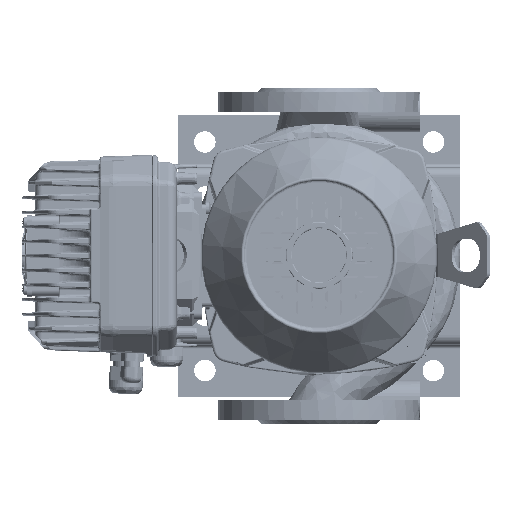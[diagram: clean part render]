
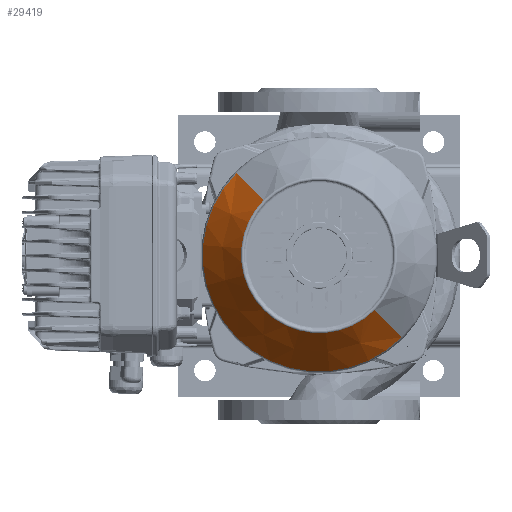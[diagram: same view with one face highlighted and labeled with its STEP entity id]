
A CAD part, top view. The second image highlights one B-rep face of the part: STEP entity #29419.
In plain terms, the highlighted conical face has half-angle 37 degrees and reference radius 58.108 mm.
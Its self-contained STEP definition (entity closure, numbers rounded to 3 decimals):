
#29419=ADVANCED_FACE('NONE',(#99719),#99720,.T.);
#99719=FACE_OUTER_BOUND('',#146958,.T.);
#99720=CONICAL_SURFACE('',#146959,58.108,0.646);
#146958=EDGE_LOOP('',(#177539,#177540,#177541,#177542));
#146959=AXIS2_PLACEMENT_3D('',#177543,#177544,#177545);
#177539=ORIENTED_EDGE('',*,*,#206069,.F.);
#177540=ORIENTED_EDGE('',*,*,#206067,.F.);
#177541=ORIENTED_EDGE('',*,*,#206070,.F.);
#177542=ORIENTED_EDGE('',*,*,#206071,.T.);
#177543=CARTESIAN_POINT('',(0.0,96.403,0.0));
#177544=DIRECTION('',(-0.0,-1.0,-0.0));
#177545=DIRECTION('',(0.0,0.0,-1.0));
#206067=EDGE_CURVE('NONE',#297285,#297287,#297288,.T.);
#206069=EDGE_CURVE('',#297287,#297290,#297291,.T.);
#206070=EDGE_CURVE('',#297292,#297285,#297293,.T.);
#206071=EDGE_CURVE('NONE',#297292,#297290,#297294,.T.);
#297285=VERTEX_POINT('',#327905);
#297287=VERTEX_POINT('NONE',#327907);
#297288=CIRCLE('',#327908,58.108);
#297290=VERTEX_POINT('NONE',#327910);
#297291=LINE('',#327911,#327912);
#297292=VERTEX_POINT('',#327913);
#297293=LINE('',#327914,#327915);
#297294=CIRCLE('',#327916,86.592);
#327905=CARTESIAN_POINT('',(0.,96.403,58.108));
#327907=CARTESIAN_POINT('',(0.,96.403,-58.108));
#327908=AXIS2_PLACEMENT_3D('',#339029,#339030,#339031);
#327910=CARTESIAN_POINT('',(0.0,58.603,-86.592));
#327911=CARTESIAN_POINT('',(0.,96.403,-58.108));
#327912=VECTOR('',#339035,1.0);
#327913=CARTESIAN_POINT('',(0.,58.603,86.592));
#327914=CARTESIAN_POINT('',(0.,96.403,58.108));
#327915=VECTOR('',#339036,1.0);
#327916=AXIS2_PLACEMENT_3D('',#339037,#339038,#339039);
#339029=CARTESIAN_POINT('',(0.0,96.403,0.0));
#339030=DIRECTION('',(0.0,1.0,0.0));
#339031=DIRECTION('',(0.0,0.0,1.0));
#339035=DIRECTION('',(0.,-0.799,-0.602));
#339036=DIRECTION('',(0.,0.799,-0.602));
#339037=CARTESIAN_POINT('',(0.0,58.603,0.0));
#339038=DIRECTION('',(0.0,1.0,0.0));
#339039=DIRECTION('',(0.0,0.0,1.0));
